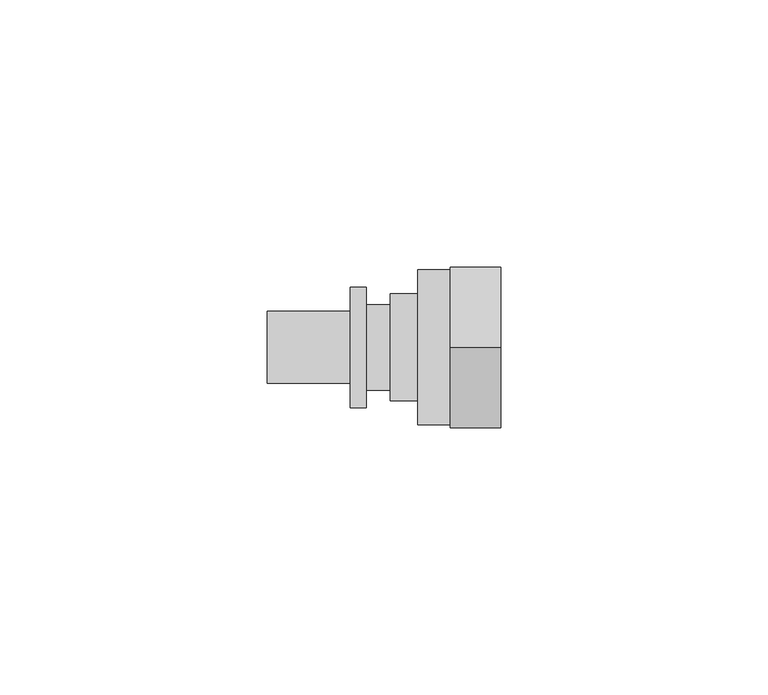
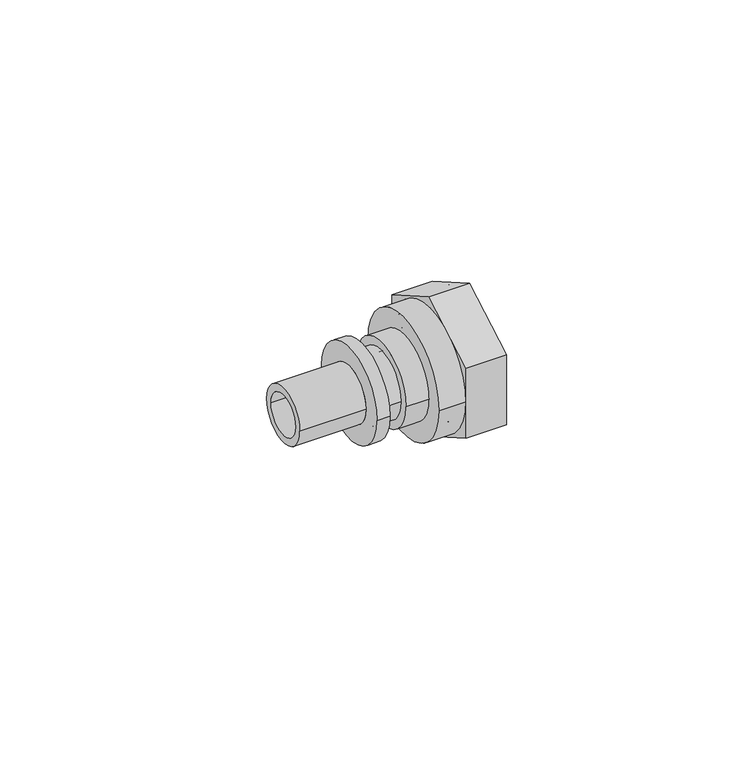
"""IFC4 building model written with IfcOpenShell, lengths in millimetres: pipe fitting geometry, REHAU_RAUTITAN_Adaptor_RX+_union nut : REHAU_RAUTITAN_Adaptor_RX+_union nut."""

from ifc_helpers import new_model, si_unit, point, frame, origin, origin_2d, place, context, project, spatial, polyline, circle_curve, trimmed, segment, composite_curve, outline, extrude, source, transform, mapped, element, save
from ifc_brep_helpers import plane_surface, cylinder_surface, revolved_surface, advanced_brep


def pipe_fitting_0ecc4e03(model_context):
    return source(origin(), model_context, "Body", "SolidModel", [
        advanced_brep(
        [(0.0, 8.0, 0.0), (0.0, -8.0, 0.0), (-4.5, -8.0, 0.0), (-4.5, 8.0, 0.0), (-23.0, 4.95, 0.0), (-23.0, -4.95, 0.0), (0.0, -4.95, 0.0), (0.0, 4.95, 0.0), (-7.5, 6.725, 0.0), (-7.5, -6.725, 0.0), (-23.0, -6.725, 0.0), (-23.0, 6.725, 0.0), (-4.5, 11.25, 0.0), (-4.5, -11.25, 0.0), (-7.5, -11.25, 0.0), (-7.5, 11.25, 0.0)],
        [
            (0, 1, circle_curve(frame((0.0, 0.0, 0.0), z_axis=(-1.0, 0.0, 0.0), x_axis=(0.0, -1.0, 0.0)), 8.0)),
            (1, 2),
            (2, 3, circle_curve(frame((-4.5, 0.0, 0.0), z_axis=(1.0, 0.0, 0.0), x_axis=(0.0, -1.0, 0.0)), 8.0)),
            (3, 0),
            (4, 5, circle_curve(frame((-23.0, 0.0, 0.0), z_axis=(-1.0, 0.0, 0.0), x_axis=(0.0, -1.0, 0.0)), 4.95)),
            (5, 6),
            (6, 7, circle_curve(frame((0.0, 0.0, 0.0), z_axis=(1.0, 0.0, 0.0), x_axis=(0.0, -1.0, 0.0)), 4.95)),
            (7, 4),
            (8, 9, circle_curve(frame((-7.5, 0.0, 0.0), z_axis=(-1.0, 0.0, 0.0), x_axis=(0.0, -1.0, 0.0)), 6.725)),
            (9, 10),
            (10, 11, circle_curve(frame((-23.0, 0.0, 0.0), z_axis=(1.0, 0.0, 0.0), x_axis=(0.0, -1.0, 0.0)), 6.725)),
            (11, 8),
            (12, 13, circle_curve(frame((-4.5, 0.0, 0.0), z_axis=(-1.0, 0.0, 0.0), x_axis=(0.0, -1.0, 0.0)), 11.25)),
            (13, 14),
            (14, 15, circle_curve(frame((-7.5, 0.0, 0.0), z_axis=(1.0, 0.0, 0.0), x_axis=(0.0, -1.0, 0.0)), 11.25)),
            (15, 12),
            (1, 0, circle_curve(frame((0.0, 0.0, 0.0), z_axis=(-1.0, 0.0, 0.0), x_axis=(0.0, 1.0, 0.0)), 8.0)),
            (3, 2, circle_curve(frame((-4.5, 0.0, 0.0), z_axis=(1.0, 0.0, 0.0), x_axis=(0.0, 1.0, 0.0)), 8.0)),
            (6, 7, circle_curve(frame((0.0, 0.0, 0.0), z_axis=(-1.0, 0.0, 0.0), x_axis=(0.0, 1.0, 0.0)), 4.95)),
            (5, 4, circle_curve(frame((-23.0, 0.0, 0.0), z_axis=(-1.0, 0.0, 0.0), x_axis=(0.0, 1.0, 0.0)), 4.95)),
            (10, 11, circle_curve(frame((-23.0, 0.0, 0.0), z_axis=(-1.0, 0.0, 0.0), x_axis=(0.0, 1.0, 0.0)), 6.725)),
            (9, 8, circle_curve(frame((-7.5, 0.0, 0.0), z_axis=(-1.0, 0.0, 0.0), x_axis=(0.0, 1.0, 0.0)), 6.725)),
            (14, 15, circle_curve(frame((-7.5, 0.0, 0.0), z_axis=(-1.0, 0.0, 0.0), x_axis=(0.0, 1.0, 0.0)), 11.25)),
            (13, 12, circle_curve(frame((-4.5, 0.0, 0.0), z_axis=(-1.0, 0.0, 0.0), x_axis=(0.0, 1.0, 0.0)), 11.25)),
        ],
        [
            cylinder_surface(frame((0.0, 0.0, 0.0), z_axis=(1.0, 0.0, 0.0), x_axis=(0.0, -1.0, 0.0)), 8.0),
            revolved_surface(polyline([(0.0, -4.95, 0.0), (-23.0, -4.95, 0.0)]), (0.0, 0.0, 0.0), (1.0, 0.0, 0.0)),
            cylinder_surface(frame((0.0, 0.0, 0.0), z_axis=(1.0, 0.0, 0.0), x_axis=(0.0, -1.0, 0.0)), 6.725),
            cylinder_surface(frame((0.0, 0.0, 0.0), z_axis=(1.0, 0.0, 0.0), x_axis=(0.0, -1.0, 0.0)), 11.25),
            cylinder_surface(frame((0.0, 0.0, 0.0), z_axis=(1.0, 0.0, 0.0), x_axis=(0.0, 1.0, 0.0)), 8.0),
            plane_surface(frame((0.0, 0.0, 0.0), z_axis=(1.0, 0.0, 0.0), x_axis=(0.0, 1.0, 0.0))),
            revolved_surface(polyline([(0.0, 4.95, 0.0), (-23.0, 4.95, 0.0)]), (0.0, 0.0, 0.0), (1.0, 0.0, 0.0)),
            plane_surface(frame((-23.0, 0.0, 0.0), z_axis=(-1.0, 0.0, 0.0), x_axis=(0.0, 1.0, 0.0))),
            cylinder_surface(frame((0.0, 0.0, 0.0), z_axis=(1.0, 0.0, 0.0), x_axis=(0.0, 1.0, 0.0)), 6.725),
            plane_surface(frame((-7.5, 0.0, 0.0), z_axis=(-1.0, 0.0, 0.0), x_axis=(0.0, 1.0, 0.0))),
            cylinder_surface(frame((0.0, 0.0, 0.0), z_axis=(1.0, 0.0, 0.0), x_axis=(0.0, 1.0, 0.0)), 11.25),
            plane_surface(frame((-4.5, 0.0, 0.0), z_axis=(1.0, 0.0, 0.0), x_axis=(0.0, 1.0, 0.0))),
        ],
        [
            (0, [[1, 2, 3, 4]]),
            (1, [[5, 6, 7, 8]]),
            (2, [[9, 10, 11, 12]]),
            (3, [[13, 14, 15, 16]]),
            (4, [[17, -4, 18, -2]]),
            (5, [[-17, -1], [19, -7]]),
            (6, [[20, -8, -19, -6]]),
            (7, [[21, -11], [-20, -5]]),
            (8, [[22, -12, -21, -10]]),
            (9, [[23, -15], [-22, -9]]),
            (10, [[24, -16, -23, -14]]),
            (11, [[-24, -13], [-18, -3]]),
        ],
    ),
        advanced_brep(
        [(8.0, 10.0, 0.0), (8.0, -10.0, 0.0), (0.0, -10.0, 0.0), (0.0, 10.0, 0.0), (11.0, 12.0, 0.0), (11.0, -12.0, 0.0), (8.0, -12.0, 0.0), (8.0, 12.0, 0.0), (1.4730817, 6.0, 0.0), (1.4730817, -6.0, 0.0), (11.0, -6.0, 0.0), (11.0, 6.0, 0.0), (0.0, 3.8264556, 0.0), (0.0, -3.8264556, 0.0), (1.4730817, -3.8264556, 0.0), (1.4730817, 3.8264556, 0.0)],
        [
            (0, 1, circle_curve(frame((8.0, 0.0, 0.0), z_axis=(-1.0, 0.0, 0.0), x_axis=(0.0, -1.0, 0.0)), 10.0)),
            (1, 2),
            (2, 3, circle_curve(frame((0.0, 0.0, 0.0), z_axis=(1.0, 0.0, 0.0), x_axis=(0.0, -1.0, 0.0)), 10.0)),
            (3, 0),
            (4, 5, circle_curve(frame((11.0, 0.0, 0.0), z_axis=(-1.0, 0.0, 0.0), x_axis=(0.0, -1.0, 0.0)), 12.0)),
            (5, 6),
            (6, 7, circle_curve(frame((8.0, 0.0, 0.0), z_axis=(1.0, 0.0, 0.0), x_axis=(0.0, -1.0, 0.0)), 12.0)),
            (7, 4),
            (8, 9, circle_curve(frame((1.4730817, 0.0, 0.0), z_axis=(-1.0, 0.0, 0.0), x_axis=(0.0, -1.0, 0.0)), 6.0)),
            (9, 10),
            (10, 11, circle_curve(frame((11.0, 0.0, 0.0), z_axis=(1.0, 0.0, 0.0), x_axis=(0.0, -1.0, 0.0)), 6.0)),
            (11, 8),
            (2, 3, circle_curve(frame((0.0, 0.0, 0.0), z_axis=(-1.0, 0.0, 0.0), x_axis=(0.0, 1.0, 0.0)), 10.0)),
            (12, 13, circle_curve(frame((0.0, 0.0, 0.0), z_axis=(1.0, 0.0, 0.0), x_axis=(0.0, 1.0, 0.0)), 3.8264556)),
            (13, 12, circle_curve(frame((0.0, 0.0, 0.0), z_axis=(1.0, 0.0, 0.0), x_axis=(0.0, -1.0, 0.0)), 3.8264556)),
            (1, 0, circle_curve(frame((8.0, 0.0, 0.0), z_axis=(-1.0, 0.0, 0.0), x_axis=(0.0, 1.0, 0.0)), 10.0)),
            (6, 7, circle_curve(frame((8.0, 0.0, 0.0), z_axis=(-1.0, 0.0, 0.0), x_axis=(0.0, 1.0, 0.0)), 12.0)),
            (5, 4, circle_curve(frame((11.0, 0.0, 0.0), z_axis=(-1.0, 0.0, 0.0), x_axis=(0.0, 1.0, 0.0)), 12.0)),
            (10, 11, circle_curve(frame((11.0, 0.0, 0.0), z_axis=(-1.0, 0.0, 0.0), x_axis=(0.0, 1.0, 0.0)), 6.0)),
            (9, 8, circle_curve(frame((1.4730817, 0.0, 0.0), z_axis=(-1.0, 0.0, 0.0), x_axis=(0.0, 1.0, 0.0)), 6.0)),
            (13, 14),
            (14, 15, circle_curve(frame((1.4730817, 0.0, 0.0), z_axis=(1.0, 0.0, 0.0), x_axis=(0.0, -1.0, 0.0)), 3.8264556)),
            (15, 12),
            (14, 15, circle_curve(frame((1.4730817, 0.0, 0.0), z_axis=(-1.0, 0.0, 0.0), x_axis=(0.0, 1.0, 0.0)), 3.8264556)),
        ],
        [
            cylinder_surface(frame((0.0, 0.0, 0.0), z_axis=(1.0, 0.0, 0.0), x_axis=(0.0, -1.0, 0.0)), 10.0),
            cylinder_surface(frame((0.0, 0.0, 0.0), z_axis=(1.0, 0.0, 0.0), x_axis=(0.0, -1.0, 0.0)), 12.0),
            revolved_surface(polyline([(11.0, -6.0, 0.0), (1.4730817, -6.0, 0.0)]), (0.0, 0.0, 0.0), (1.0, 0.0, 0.0)),
            plane_surface(frame((0.0, 0.0, 0.0), z_axis=(-1.0, 0.0, 0.0), x_axis=(0.0, 1.0, 0.0))),
            cylinder_surface(frame((0.0, 0.0, 0.0), z_axis=(1.0, 0.0, 0.0), x_axis=(0.0, 1.0, 0.0)), 10.0),
            plane_surface(frame((8.0, 0.0, 0.0), z_axis=(-1.0, 0.0, 0.0), x_axis=(0.0, 1.0, 0.0))),
            cylinder_surface(frame((0.0, 0.0, 0.0), z_axis=(1.0, 0.0, 0.0), x_axis=(0.0, 1.0, 0.0)), 12.0),
            plane_surface(frame((11.0, 0.0, 0.0), z_axis=(1.0, 0.0, 0.0), x_axis=(0.0, 1.0, 0.0))),
            revolved_surface(polyline([(11.0, 6.0, 0.0), (1.4730817, 6.0, 0.0)]), (0.0, 0.0, 0.0), (1.0, 0.0, 0.0)),
            revolved_surface(polyline([(1.4730817, -3.8264556, 0.0), (0.0, -3.8264556, 0.0)]), (0.0, 0.0, 0.0), (1.0, 0.0, 0.0)),
            plane_surface(frame((1.4730817, 0.0, 0.0), z_axis=(1.0, 0.0, 0.0), x_axis=(0.0, 1.0, 0.0))),
            revolved_surface(polyline([(1.4730817, 3.8264556, 0.0), (0.0, 3.8264556, 0.0)]), (0.0, 0.0, 0.0), (1.0, 0.0, 0.0)),
        ],
        [
            (0, [[1, 2, 3, 4]]),
            (1, [[5, 6, 7, 8]]),
            (2, [[9, 10, 11, 12]]),
            (3, [[13, -3], [14, 15]]),
            (4, [[16, -4, -13, -2]]),
            (5, [[17, -7], [-16, -1]]),
            (6, [[18, -8, -17, -6]]),
            (7, [[-18, -5], [19, -11]]),
            (8, [[20, -12, -19, -10]]),
            (9, [[-15, 21, 22, 23]]),
            (10, [[-20, -9], [24, -22]]),
            (11, [[-14, -23, -24, -21]]),
        ],
    ),
        advanced_brep(
        [(20.7, 14.5, 0.0), (20.7, -14.5, 0.0), (5.2, -14.5, 0.0), (5.2, 14.5, 0.0), (8.0, 12.0, 0.0), (8.0, -12.0, 0.0), (20.7, -12.0, 0.0), (20.7, 12.0, 0.0), (5.2, 9.2, 0.0), (5.2, -9.2, 0.0), (8.0, -9.2, 0.0), (8.0, 9.2, 0.0)],
        [
            (0, 1, circle_curve(frame((20.7, 0.0, 0.0), z_axis=(-1.0, 0.0, 0.0), x_axis=(0.0, -1.0, 0.0)), 14.5)),
            (1, 2),
            (2, 3, circle_curve(frame((5.2, 0.0, 0.0), z_axis=(1.0, 0.0, 0.0), x_axis=(0.0, -1.0, 0.0)), 14.5)),
            (3, 0),
            (4, 5, circle_curve(frame((8.0, 0.0, 0.0), z_axis=(-1.0, 0.0, 0.0), x_axis=(0.0, -1.0, 0.0)), 12.0)),
            (5, 6),
            (6, 7, circle_curve(frame((20.7, 0.0, 0.0), z_axis=(1.0, 0.0, 0.0), x_axis=(0.0, -1.0, 0.0)), 12.0)),
            (7, 4),
            (8, 9, circle_curve(frame((5.2, 0.0, 0.0), z_axis=(-1.0, 0.0, 0.0), x_axis=(0.0, -1.0, 0.0)), 9.2)),
            (9, 10),
            (10, 11, circle_curve(frame((8.0, 0.0, 0.0), z_axis=(1.0, 0.0, 0.0), x_axis=(0.0, -1.0, 0.0)), 9.2)),
            (11, 8),
            (1, 0, circle_curve(frame((20.7, 0.0, 0.0), z_axis=(-1.0, 0.0, 0.0), x_axis=(0.0, 1.0, 0.0)), 14.5)),
            (3, 2, circle_curve(frame((5.2, 0.0, 0.0), z_axis=(1.0, 0.0, 0.0), x_axis=(0.0, 1.0, 0.0)), 14.5)),
            (6, 7, circle_curve(frame((20.7, 0.0, 0.0), z_axis=(-1.0, 0.0, 0.0), x_axis=(0.0, 1.0, 0.0)), 12.0)),
            (5, 4, circle_curve(frame((8.0, 0.0, 0.0), z_axis=(-1.0, 0.0, 0.0), x_axis=(0.0, 1.0, 0.0)), 12.0)),
            (10, 11, circle_curve(frame((8.0, 0.0, 0.0), z_axis=(-1.0, 0.0, 0.0), x_axis=(0.0, 1.0, 0.0)), 9.2)),
            (9, 8, circle_curve(frame((5.2, 0.0, 0.0), z_axis=(-1.0, 0.0, 0.0), x_axis=(0.0, 1.0, 0.0)), 9.2)),
        ],
        [
            cylinder_surface(frame((0.0, 0.0, 0.0), z_axis=(1.0, 0.0, 0.0), x_axis=(0.0, -1.0, 0.0)), 14.5),
            revolved_surface(polyline([(20.7, -12.0, 0.0), (8.0, -12.0, 0.0)]), (0.0, 0.0, 0.0), (1.0, 0.0, 0.0)),
            revolved_surface(polyline([(8.0, -9.2, 0.0), (5.2, -9.2, 0.0)]), (0.0, 0.0, 0.0), (1.0, 0.0, 0.0)),
            cylinder_surface(frame((0.0, 0.0, 0.0), z_axis=(1.0, 0.0, 0.0), x_axis=(0.0, 1.0, 0.0)), 14.5),
            plane_surface(frame((20.7, 0.0, 0.0), z_axis=(1.0, 0.0, 0.0), x_axis=(0.0, 1.0, 0.0))),
            revolved_surface(polyline([(20.7, 12.0, 0.0), (8.0, 12.0, 0.0)]), (0.0, 0.0, 0.0), (1.0, 0.0, 0.0)),
            plane_surface(frame((8.0, 0.0, 0.0), z_axis=(1.0, 0.0, 0.0), x_axis=(0.0, 1.0, 0.0))),
            revolved_surface(polyline([(8.0, 9.2, 0.0), (5.2, 9.2, 0.0)]), (0.0, 0.0, 0.0), (1.0, 0.0, 0.0)),
            plane_surface(frame((5.2, 0.0, 0.0), z_axis=(-1.0, 0.0, 0.0), x_axis=(0.0, 1.0, 0.0))),
        ],
        [
            (0, [[1, 2, 3, 4]]),
            (1, [[5, 6, 7, 8]]),
            (2, [[9, 10, 11, 12]]),
            (3, [[13, -4, 14, -2]]),
            (4, [[-13, -1], [15, -7]]),
            (5, [[16, -8, -15, -6]]),
            (6, [[-16, -5], [17, -11]]),
            (7, [[18, -12, -17, -10]]),
            (8, [[-14, -3], [-18, -9]]),
        ],
    ),
        extrude(outline(polyline([(0.0, -17.3205081), (-15.0, -8.660254), (-15.0, 8.660254), (0.0, 17.3205081), (15.0, 8.660254), (15.0, -8.660254), (0.0, -17.3205081)]), holes=[composite_curve([segment(trimmed(circle_curve(origin_2d(), 14.5), [point((-14.5, 0.0))], [point((14.5, 0.0))], True, "CARTESIAN"), True, "CONTINUOUS"), segment(trimmed(circle_curve(origin_2d(), 14.5), [point((14.5, 0.0))], [point((-14.5, 0.0))], True, "CARTESIAN"), True, "CONTINUOUS")], self_intersect=False)]), frame((11.2, 0.0, 0.0), z_axis=(1.0, 0.0, 0.0), x_axis=(0.0, 1.0, 0.0)), (0.0, 0.0, 1.0), 9.5),
    ])


if __name__ == "__main__":
    model = new_model("IFC4")
    model_context = context("Model", 3, world=origin())
    ifc_project = project(units=[si_unit("LENGTHUNIT", "METRE", prefix="MILLI")], contexts=[model_context])
    site = spatial("IfcSite", under=ifc_project)
    building = spatial("IfcBuilding", under=site)
    placement = place(None, origin())
    pipe_fitting_shape = pipe_fitting_0ecc4e03(model_context)
    element("IfcPipeFitting", 1, ObjectType="REHAU_RAUTITAN_Adaptor_RX+_union nut : REHAU_RAUTITAN_Adaptor_RX+_union nut", at=placement, inside=building, context=model_context, shape_type="MappedRepresentation", body=[
        mapped(pipe_fitting_shape, transform((0.0, 0.0, 0.0), x_axis=(1.0, 0.0, 0.0), y_axis=(0.0, 1.0, 0.0), z_axis=(0.0, 0.0, 1.0))),
    ])
    save(model, "model.ifc")
